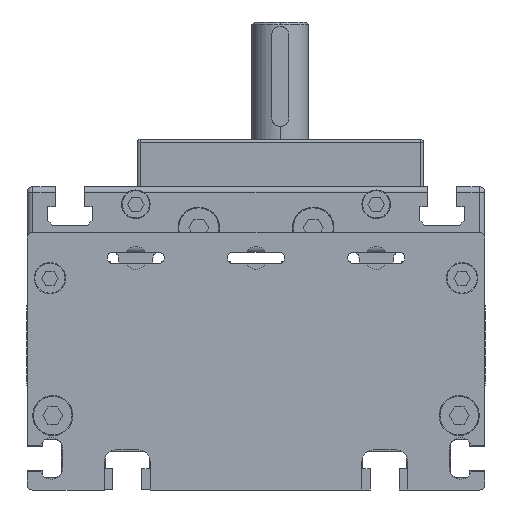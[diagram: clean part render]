
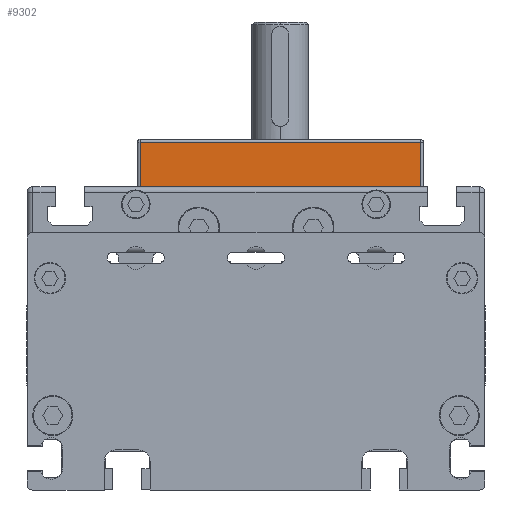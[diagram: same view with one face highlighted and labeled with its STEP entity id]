
A CAD part, left-side view. The second image highlights one B-rep face of the part: STEP entity #9302.
In plain terms, the highlighted planar face has unit normal (-1, 0, 0).
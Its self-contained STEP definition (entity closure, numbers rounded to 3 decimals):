
#468 = VECTOR ( 'NONE', #14562, 1000. ) ;
#1928 = VECTOR ( 'NONE', #3493, 1000. ) ;
#2029 = VERTEX_POINT ( 'NONE', #6076 ) ;
#2711 = EDGE_CURVE ( 'NONE', #9293, #4051, #5014, .T. ) ;
#2831 = CARTESIAN_POINT ( 'NONE',  ( -50., 49., 15.5 ) ) ;
#3493 = DIRECTION ( 'NONE',  ( 0., 0., -1. ) ) ;
#4051 = VERTEX_POINT ( 'NONE', #9699 ) ;
#5014 = LINE ( 'NONE', #13639, #1928 ) ;
#5120 = DIRECTION ( 'NONE',  ( 0., 1., 0. ) ) ;
#5334 = EDGE_CURVE ( 'NONE', #2029, #9293, #7081, .T. ) ;
#5481 = CARTESIAN_POINT ( 'NONE',  ( -50., -50., 0. ) ) ;
#5939 = VERTEX_POINT ( 'NONE', #11647 ) ;
#6076 = CARTESIAN_POINT ( 'NONE',  ( -50., -49., 15.5 ) ) ;
#6644 = EDGE_CURVE ( 'NONE', #5939, #2029, #7981, .T. ) ;
#6721 = DIRECTION ( 'NONE',  ( 0., 0., 1. ) ) ;
#7057 = CARTESIAN_POINT ( 'NONE',  ( -50., -49., 16.5 ) ) ;
#7081 = LINE ( 'NONE', #13963, #468 ) ;
#7716 = LINE ( 'NONE', #5481, #8460 ) ;
#7981 = LINE ( 'NONE', #7057, #14650 ) ;
#8460 = VECTOR ( 'NONE', #5120, 1000. ) ;
#8470 = AXIS2_PLACEMENT_3D ( 'NONE', #10591, #8770, #8720 ) ;
#8714 = EDGE_LOOP ( 'NONE', ( #11895, #12456, #13034, #13598 ) ) ;
#8720 = DIRECTION ( 'NONE',  ( 0., 0., 1. ) ) ;
#8770 = DIRECTION ( 'NONE',  ( -1., 0., 0. ) ) ;
#8838 = FACE_OUTER_BOUND ( 'NONE', #8714, .T. ) ;
#9293 = VERTEX_POINT ( 'NONE', #2831 ) ;
#9302 = ADVANCED_FACE ( 'NONE', ( #8838 ), #11210, .T. ) ;
#9699 = CARTESIAN_POINT ( 'NONE',  ( -50., 49., 0. ) ) ;
#10591 = CARTESIAN_POINT ( 'NONE',  ( -50., -50., 16.5 ) ) ;
#11210 = PLANE ( 'NONE',  #8470 ) ;
#11647 = CARTESIAN_POINT ( 'NONE',  ( -50., -49., 0. ) ) ;
#11895 = ORIENTED_EDGE ( 'NONE', *, *, #14529, .F. ) ;
#12456 = ORIENTED_EDGE ( 'NONE', *, *, #6644, .T. ) ;
#13034 = ORIENTED_EDGE ( 'NONE', *, *, #5334, .T. ) ;
#13598 = ORIENTED_EDGE ( 'NONE', *, *, #2711, .T. ) ;
#13639 = CARTESIAN_POINT ( 'NONE',  ( -50., 49., 16.5 ) ) ;
#13963 = CARTESIAN_POINT ( 'NONE',  ( -50., -50., 15.5 ) ) ;
#14529 = EDGE_CURVE ( 'NONE', #5939, #4051, #7716, .T. ) ;
#14562 = DIRECTION ( 'NONE',  ( 0., 1., 0. ) ) ;
#14650 = VECTOR ( 'NONE', #6721, 1000. ) ;
